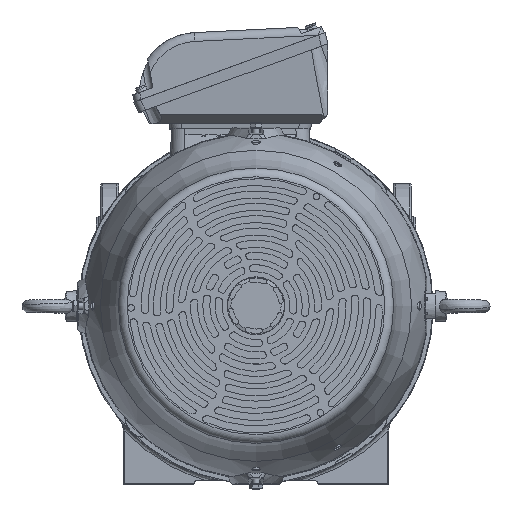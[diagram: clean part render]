
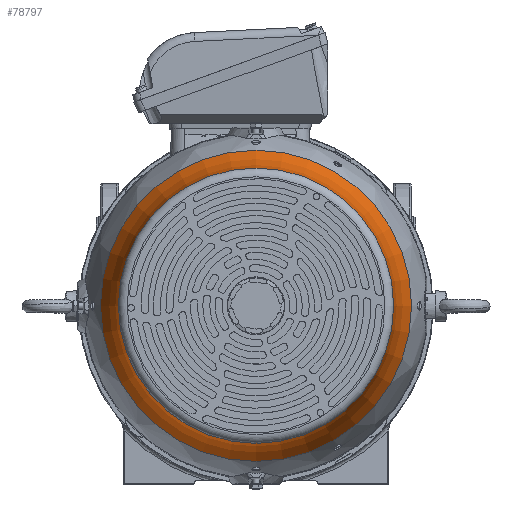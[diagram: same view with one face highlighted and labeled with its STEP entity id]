
A CAD part, top view. The second image highlights one B-rep face of the part: STEP entity #78797.
In plain terms, the highlighted toroidal (fillet/blend) face has major radius 333.581 mm and minor radius 178.663 mm.
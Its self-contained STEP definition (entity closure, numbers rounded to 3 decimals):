
#9330=TOROIDAL_SURFACE('',#84332,333.581,178.663);
#13108=FACE_OUTER_BOUND('',#17689,.T.);
#17689=EDGE_LOOP('',(#61271,#61272,#61273,#61274,#61275,#61276));
#30728=CIRCLE('',#84333,155.304);
#30729=CIRCLE('',#84334,155.304);
#30730=CIRCLE('',#84335,178.663);
#30731=CIRCLE('',#84336,175.502);
#30732=CIRCLE('',#84337,175.502);
#36397=VERTEX_POINT('',#144629);
#36398=VERTEX_POINT('',#144630);
#36399=VERTEX_POINT('',#144633);
#36400=VERTEX_POINT('',#144635);
#45490=EDGE_CURVE('',#36397,#36398,#30728,.T.);
#45491=EDGE_CURVE('',#36398,#36397,#30729,.T.);
#45492=EDGE_CURVE('',#36398,#36399,#30730,.T.);
#45493=EDGE_CURVE('',#36399,#36400,#30731,.T.);
#45494=EDGE_CURVE('',#36400,#36399,#30732,.T.);
#61271=ORIENTED_EDGE('',*,*,#45490,.F.);
#61272=ORIENTED_EDGE('',*,*,#45491,.F.);
#61273=ORIENTED_EDGE('',*,*,#45492,.T.);
#61274=ORIENTED_EDGE('',*,*,#45493,.T.);
#61275=ORIENTED_EDGE('',*,*,#45494,.T.);
#61276=ORIENTED_EDGE('',*,*,#45492,.F.);
#78797=ADVANCED_FACE('',(#13108),#9330,.F.);
#84332=AXIS2_PLACEMENT_3D('',#144628,#96649,#96650);
#84333=AXIS2_PLACEMENT_3D('',#144631,#96651,#96652);
#84334=AXIS2_PLACEMENT_3D('',#144632,#96653,#96654);
#84335=AXIS2_PLACEMENT_3D('',#144634,#96655,#96656);
#84336=AXIS2_PLACEMENT_3D('',#144636,#96657,#96658);
#84337=AXIS2_PLACEMENT_3D('',#144637,#96659,#96660);
#96649=DIRECTION('center_axis',(0.,0.,
1.));
#96650=DIRECTION('ref_axis',(0.,1.,0.));
#96651=DIRECTION('center_axis',(0.,0.,
1.));
#96652=DIRECTION('ref_axis',(0.,1.,0.));
#96653=DIRECTION('center_axis',(0.,0.,
1.));
#96654=DIRECTION('ref_axis',(0.,1.,0.));
#96655=DIRECTION('center_axis',(-1.,0.,0.));
#96656=DIRECTION('ref_axis',(0.,-1.,0.));
#96657=DIRECTION('center_axis',(0.,0.,
1.));
#96658=DIRECTION('ref_axis',(0.,1.,0.));
#96659=DIRECTION('center_axis',(0.,0.,
1.));
#96660=DIRECTION('ref_axis',(0.,1.,0.));
#144628=CARTESIAN_POINT('Origin',(0.,0.,
778.528));
#144629=CARTESIAN_POINT('',(0.,155.304,766.784));
#144630=CARTESIAN_POINT('',(0.,-155.304,766.784));
#144631=CARTESIAN_POINT('Origin',(0.,0.,
766.784));
#144632=CARTESIAN_POINT('Origin',(0.,0.,
766.784));
#144633=CARTESIAN_POINT('',(0.,-175.502,695.273));
#144634=CARTESIAN_POINT('Origin',(0.,-333.581,
778.528));
#144635=CARTESIAN_POINT('',(0.,175.502,695.273));
#144636=CARTESIAN_POINT('Origin',(0.,0.,
695.273));
#144637=CARTESIAN_POINT('Origin',(0.,0.,
695.273));
